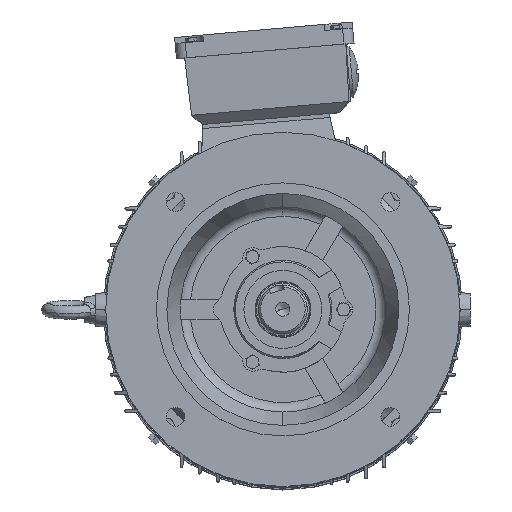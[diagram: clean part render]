
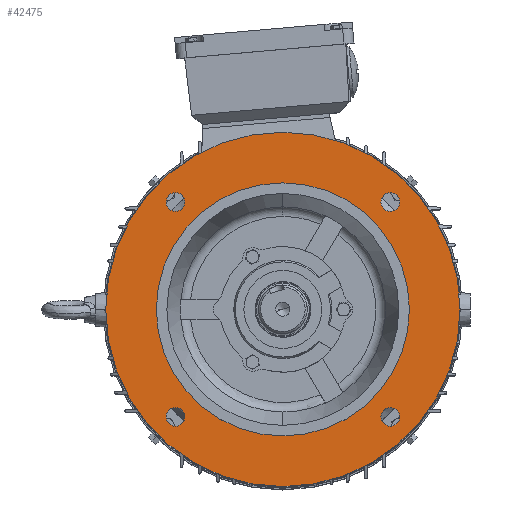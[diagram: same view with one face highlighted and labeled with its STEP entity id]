
A CAD part, top view. The second image highlights one B-rep face of the part: STEP entity #42475.
In plain terms, the highlighted planar face has unit normal (0, 0, 1) as drawn and (-1, 0, 0) by its records, which use the part's own axes.
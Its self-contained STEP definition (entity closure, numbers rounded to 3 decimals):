
#2858 = EDGE_CURVE ( 'NONE', #62552, #62558, #24479, .T. ) ;
#2872 = EDGE_CURVE ( 'NONE', #62568, #62574, #24503, .T. ) ;
#2886 = EDGE_CURVE ( 'NONE', #62583, #62589, #24527, .T. ) ;
#2892 = EDGE_CURVE ( 'NONE', #62590, #62592, #24533, .T. ) ;
#2942 = EDGE_CURVE ( 'NONE', #62654, #62656, #24627, .T. ) ;
#2982 = EDGE_CURVE ( 'NONE', #62692, #62679, #24666, .T. ) ;
#3140 = EDGE_CURVE ( 'NONE', #62574, #62568, #24877, .T. ) ;
#3142 = EDGE_CURVE ( 'NONE', #62592, #62590, #24878, .T. ) ;
#3144 = EDGE_CURVE ( 'NONE', #62679, #62692, #24880, .T. ) ;
#3145 = EDGE_CURVE ( 'NONE', #62656, #62654, #24883, .T. ) ;
#3147 = EDGE_CURVE ( 'NONE', #62589, #62583, #24884, .T. ) ;
#3149 = EDGE_CURVE ( 'NONE', #62558, #62552, #24886, .T. ) ;
#7565 = ORIENTED_EDGE ( 'NONE', *, *, #2872, .F. ) ;
#7569 = ORIENTED_EDGE ( 'NONE', *, *, #3140, .F. ) ;
#7571 = ORIENTED_EDGE ( 'NONE', *, *, #2892, .F. ) ;
#7575 = ORIENTED_EDGE ( 'NONE', *, *, #3142, .F. ) ;
#7578 = ORIENTED_EDGE ( 'NONE', *, *, #2982, .F. ) ;
#7581 = ORIENTED_EDGE ( 'NONE', *, *, #3144, .F. ) ;
#7584 = ORIENTED_EDGE ( 'NONE', *, *, #2942, .T. ) ;
#7587 = ORIENTED_EDGE ( 'NONE', *, *, #3145, .T. ) ;
#7590 = ORIENTED_EDGE ( 'NONE', *, *, #2886, .F. ) ;
#7593 = ORIENTED_EDGE ( 'NONE', *, *, #3147, .F. ) ;
#7595 = ORIENTED_EDGE ( 'NONE', *, *, #2858, .F. ) ;
#7599 = ORIENTED_EDGE ( 'NONE', *, *, #3149, .F. ) ;
#24479 = CIRCLE ( 'NONE', #48962, 9.25 ) ;
#24503 = CIRCLE ( 'NONE', #48970, 9.25 ) ;
#24527 = CIRCLE ( 'NONE', #48977, 9.25 ) ;
#24533 = CIRCLE ( 'NONE', #48982, 9.25 ) ;
#24627 = CIRCLE ( 'NONE', #49011, 175. ) ;
#24666 = CIRCLE ( 'NONE', #49037, 125. ) ;
#24877 = CIRCLE ( 'NONE', #49155, 9.25 ) ;
#24878 = CIRCLE ( 'NONE', #49157, 9.25 ) ;
#24880 = CIRCLE ( 'NONE', #49159, 125. ) ;
#24883 = CIRCLE ( 'NONE', #49162, 175. ) ;
#24884 = CIRCLE ( 'NONE', #49164, 9.25 ) ;
#24886 = CIRCLE ( 'NONE', #49167, 9.25 ) ;
#27795 = EDGE_LOOP ( 'NONE', ( #7571, #7575 ) ) ;
#27811 = EDGE_LOOP ( 'NONE', ( #7578, #7581 ) ) ;
#27815 = EDGE_LOOP ( 'NONE', ( #7565, #7569 ) ) ;
#42475 = ADVANCED_FACE ( 'NONE', ( #51050, #51075, #51058, #51077, #51084, #51063 ), #46610, .F. ) ;
#46610 = PLANE ( 'NONE',  #54511 ) ;
#46612 = CARTESIAN_POINT ( 'NONE',  ( 5., 125., 0. ) ) ;
#46613 = DIRECTION ( 'NONE',  ( 1., 0., 0. ) ) ;
#46614 = DIRECTION ( 'NONE',  ( 0., 0., -1. ) ) ;
#48962 = AXIS2_PLACEMENT_3D ( 'NONE', #76585, #76586, #76587 ) ;
#48970 = AXIS2_PLACEMENT_3D ( 'NONE', #76605, #76606, #76607 ) ;
#48977 = AXIS2_PLACEMENT_3D ( 'NONE', #76625, #76626, #76627 ) ;
#48982 = AXIS2_PLACEMENT_3D ( 'NONE', #76635, #76636, #76637 ) ;
#49011 = AXIS2_PLACEMENT_3D ( 'NONE', #76708, #76709, #76710 ) ;
#49037 = AXIS2_PLACEMENT_3D ( 'NONE', #76800, #76801, #76802 ) ;
#49155 = AXIS2_PLACEMENT_3D ( 'NONE', #77189, #77190, #77191 ) ;
#49157 = AXIS2_PLACEMENT_3D ( 'NONE', #77192, #77193, #77194 ) ;
#49159 = AXIS2_PLACEMENT_3D ( 'NONE', #77195, #77196, #77197 ) ;
#49162 = AXIS2_PLACEMENT_3D ( 'NONE', #77198, #77199, #77200 ) ;
#49164 = AXIS2_PLACEMENT_3D ( 'NONE', #77201, #77202, #77203 ) ;
#49167 = AXIS2_PLACEMENT_3D ( 'NONE', #77206, #77207, #77208 ) ;
#51050 = FACE_BOUND ( 'NONE', #27815, .T. ) ;
#51058 = FACE_BOUND ( 'NONE', #27811, .T. ) ;
#51063 = FACE_BOUND ( 'NONE', #56993, .T. ) ;
#51075 = FACE_BOUND ( 'NONE', #27795, .T. ) ;
#51077 = FACE_OUTER_BOUND ( 'NONE', #56943, .T. ) ;
#51084 = FACE_BOUND ( 'NONE', #56995, .T. ) ;
#54511 = AXIS2_PLACEMENT_3D ( 'NONE', #46612, #46613, #46614 ) ;
#56943 = EDGE_LOOP ( 'NONE', ( #7584, #7587 ) ) ;
#56993 = EDGE_LOOP ( 'NONE', ( #7595, #7599 ) ) ;
#56995 = EDGE_LOOP ( 'NONE', ( #7590, #7593 ) ) ;
#62552 = VERTEX_POINT ( 'NONE', #79495 ) ;
#62558 = VERTEX_POINT ( 'NONE', #79498 ) ;
#62568 = VERTEX_POINT ( 'NONE', #79503 ) ;
#62574 = VERTEX_POINT ( 'NONE', #79506 ) ;
#62583 = VERTEX_POINT ( 'NONE', #79511 ) ;
#62589 = VERTEX_POINT ( 'NONE', #79514 ) ;
#62590 = VERTEX_POINT ( 'NONE', #79515 ) ;
#62592 = VERTEX_POINT ( 'NONE', #79516 ) ;
#62654 = VERTEX_POINT ( 'NONE', #79548 ) ;
#62656 = VERTEX_POINT ( 'NONE', #79549 ) ;
#62679 = VERTEX_POINT ( 'NONE', #79561 ) ;
#62692 = VERTEX_POINT ( 'NONE', #79568 ) ;
#76585 = CARTESIAN_POINT ( 'NONE',  ( 5., 106.066, -106.066 ) ) ;
#76586 = DIRECTION ( 'NONE',  ( -1., 0., 0. ) ) ;
#76587 = DIRECTION ( 'NONE',  ( 0., 0., -1. ) ) ;
#76605 = CARTESIAN_POINT ( 'NONE',  ( 5., -106.066, -106.066 ) ) ;
#76606 = DIRECTION ( 'NONE',  ( -1., 0., 0. ) ) ;
#76607 = DIRECTION ( 'NONE',  ( 0., 0., -1. ) ) ;
#76625 = CARTESIAN_POINT ( 'NONE',  ( 5., -106.066, 106.066 ) ) ;
#76626 = DIRECTION ( 'NONE',  ( -1., 0., 0. ) ) ;
#76627 = DIRECTION ( 'NONE',  ( 0., 0., -1. ) ) ;
#76635 = CARTESIAN_POINT ( 'NONE',  ( 5., 106.066, 106.066 ) ) ;
#76636 = DIRECTION ( 'NONE',  ( -1., 0., 0. ) ) ;
#76637 = DIRECTION ( 'NONE',  ( 0., 0., -1. ) ) ;
#76708 = CARTESIAN_POINT ( 'NONE',  ( 5., 0., 0. ) ) ;
#76709 = DIRECTION ( 'NONE',  ( -1., 0., 0. ) ) ;
#76710 = DIRECTION ( 'NONE',  ( 0., 0., 1. ) ) ;
#76800 = CARTESIAN_POINT ( 'NONE',  ( 5., 0., 0. ) ) ;
#76801 = DIRECTION ( 'NONE',  ( -1., 0., 0. ) ) ;
#76802 = DIRECTION ( 'NONE',  ( 0., 0., 1. ) ) ;
#77189 = CARTESIAN_POINT ( 'NONE',  ( 5., -106.066, -106.066 ) ) ;
#77190 = DIRECTION ( 'NONE',  ( -1., 0., 0. ) ) ;
#77191 = DIRECTION ( 'NONE',  ( 0., 0., -1. ) ) ;
#77192 = CARTESIAN_POINT ( 'NONE',  ( 5., 106.066, 106.066 ) ) ;
#77193 = DIRECTION ( 'NONE',  ( -1., 0., 0. ) ) ;
#77194 = DIRECTION ( 'NONE',  ( 0., 0., -1. ) ) ;
#77195 = CARTESIAN_POINT ( 'NONE',  ( 5., 0., 0. ) ) ;
#77196 = DIRECTION ( 'NONE',  ( -1., 0., 0. ) ) ;
#77197 = DIRECTION ( 'NONE',  ( 0., 0., 1. ) ) ;
#77198 = CARTESIAN_POINT ( 'NONE',  ( 5., 0., 0. ) ) ;
#77199 = DIRECTION ( 'NONE',  ( -1., 0., 0. ) ) ;
#77200 = DIRECTION ( 'NONE',  ( 0., 0., 1. ) ) ;
#77201 = CARTESIAN_POINT ( 'NONE',  ( 5., -106.066, 106.066 ) ) ;
#77202 = DIRECTION ( 'NONE',  ( -1., 0., 0. ) ) ;
#77203 = DIRECTION ( 'NONE',  ( 0., 0., -1. ) ) ;
#77206 = CARTESIAN_POINT ( 'NONE',  ( 5., 106.066, -106.066 ) ) ;
#77207 = DIRECTION ( 'NONE',  ( -1., 0., 0. ) ) ;
#77208 = DIRECTION ( 'NONE',  ( 0., 0., -1. ) ) ;
#79495 = CARTESIAN_POINT ( 'NONE',  ( 5., 106.066, -115.316 ) ) ;
#79498 = CARTESIAN_POINT ( 'NONE',  ( 5., 106.066, -96.816 ) ) ;
#79503 = CARTESIAN_POINT ( 'NONE',  ( 5., -106.066, -115.316 ) ) ;
#79506 = CARTESIAN_POINT ( 'NONE',  ( 5., -106.066, -96.816 ) ) ;
#79511 = CARTESIAN_POINT ( 'NONE',  ( 5., -106.066, 96.816 ) ) ;
#79514 = CARTESIAN_POINT ( 'NONE',  ( 5., -106.066, 115.316 ) ) ;
#79515 = CARTESIAN_POINT ( 'NONE',  ( 5., 106.066, 96.816 ) ) ;
#79516 = CARTESIAN_POINT ( 'NONE',  ( 5., 106.066, 115.316 ) ) ;
#79548 = CARTESIAN_POINT ( 'NONE',  ( 5., 0., 175. ) ) ;
#79549 = CARTESIAN_POINT ( 'NONE',  ( 5., 0., -175. ) ) ;
#79561 = CARTESIAN_POINT ( 'NONE',  ( 5., 0., -125. ) ) ;
#79568 = CARTESIAN_POINT ( 'NONE',  ( 5., 0., 125. ) ) ;
